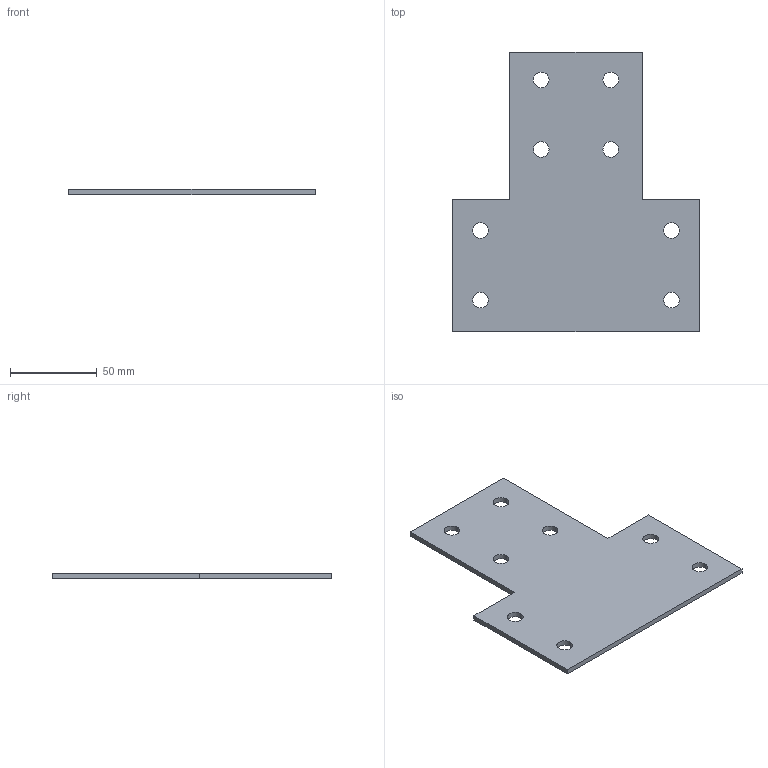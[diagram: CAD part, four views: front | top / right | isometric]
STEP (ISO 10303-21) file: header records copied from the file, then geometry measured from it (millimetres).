
FILE_DESCRIPTION (( 'STEP AP203' ), '1' );
FILE_NAME ('2089.step', '2019-02-19T08:45:45', ( '' ), ( '' ), 'SwSTEP 2.0', 'SolidWorks 2016', '' );
FILE_SCHEMA (( 'CONFIG_CONTROL_DESIGN' ));
Length unit declared in the file: millimetre
Products named in the file (1): 2089
Bounding box: 142 x 161 x 3 mm (x, y, z)
Volume: 50229.2 mm3; surface area: 35982.7 mm2
Topology: 1 solids, 1 shells, 26 faces, 72 edges, 48 vertices
Faces by surface type: cylinder 16, plane 10
Entity records: 957 total; most frequent: DIRECTION 158, CARTESIAN_POINT 147, ORIENTED_EDGE 144, EDGE_CURVE 72, AXIS2_PLACEMENT_3D 59, VERTEX_POINT 48, EDGE_LOOP 42, VECTOR 40
